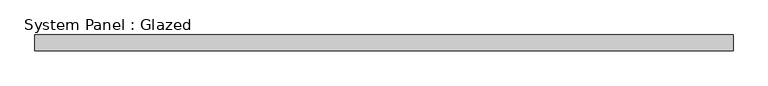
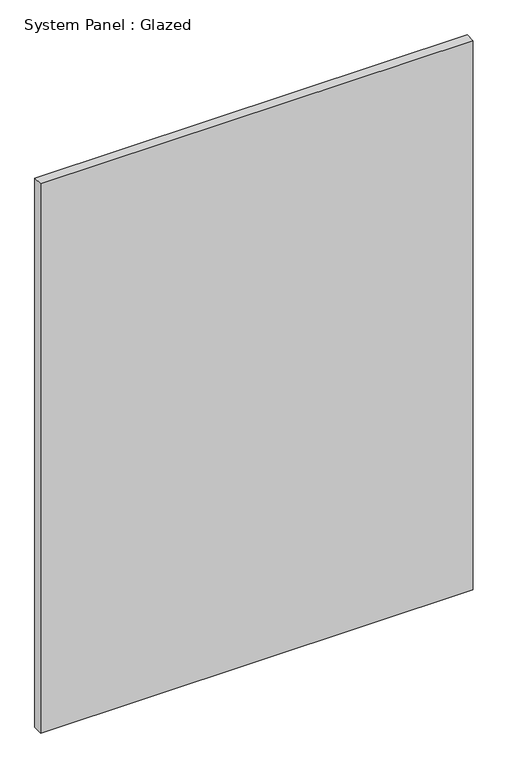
"""IFC4 building model written with IfcOpenShell, lengths in millimetres: plate geometry, System Panel : Glazed."""

from ifc_helpers import new_model, si_unit, origin, origin_with_axes, place, context, project, spatial, polyline, outline, extrude, source, transform, mapped, element, save


def system_panel_glazed_85fb0d8e(model_context):
    return source(origin(), model_context, "Body", "SweptSolid", [
        extrude(outline(polyline([(549.4999998, 24.5), (-549.4999998, 24.5), (-549.4999998, 49.5), (549.4999998, 49.5), (549.4999998, 24.5)])), origin_with_axes(), (0.0, 0.0, 1.0), 1474.0),
    ])


if __name__ == "__main__":
    model = new_model("IFC4")
    model_context = context("Model", 3, world=origin())
    ifc_project = project(units=[si_unit("LENGTHUNIT", "METRE", prefix="MILLI")], contexts=[model_context])
    site = spatial("IfcSite", under=ifc_project)
    building = spatial("IfcBuilding", under=site)
    placement = place(None, origin())
    system_panel_glazed_shape = system_panel_glazed_85fb0d8e(model_context)
    element("IfcPlate", 1, ObjectType="System Panel : Glazed", at=placement, inside=building, context=model_context, shape_type="MappedRepresentation", body=[
        mapped(system_panel_glazed_shape, transform((0.0, 0.0, 0.0), x_axis=(1.0, 0.0, 0.0), y_axis=(0.0, 1.0, 0.0), z_axis=(0.0, 0.0, 1.0))),
    ])
    save(model, "model.ifc")
